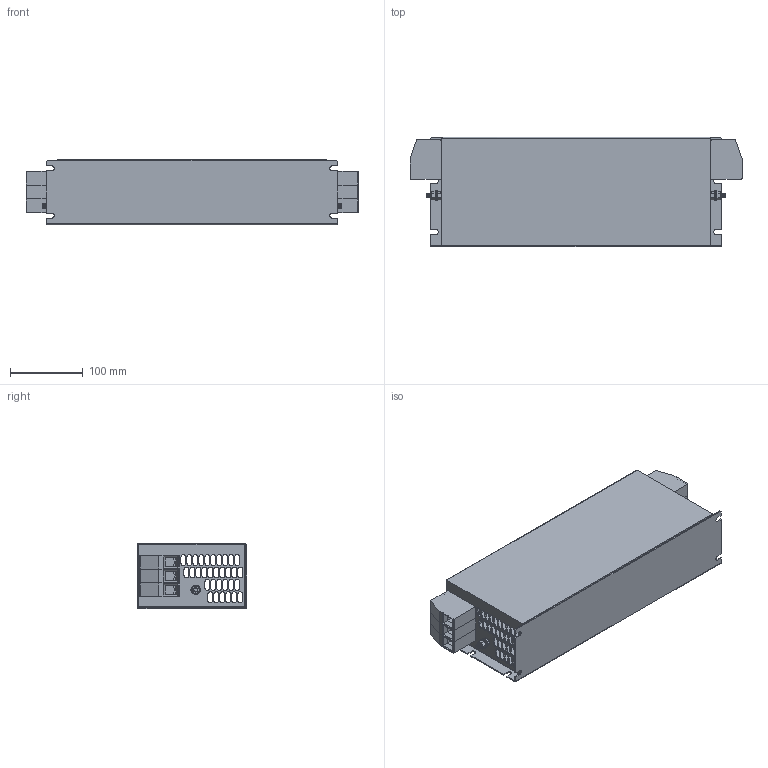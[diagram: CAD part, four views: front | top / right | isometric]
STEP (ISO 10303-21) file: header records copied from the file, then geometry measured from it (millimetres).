
FILE_DESCRIPTION (( 'STEP AP203' ), '1' );
FILE_NAME ('NF-KC-DAR2-100-3 & 130-3.STEP', '2026-01-27T17:01:01', ( '' ), ( '' ), 'SwSTEP 2.0', 'SolidWorks 2017', '' );
FILE_SCHEMA (( 'CONFIG_CONTROL_DESIGN' ));
Length unit declared in the file: millimetre
Products named in the file (7): flat washer narrow_am_B18.22M - Plain washer, 6 mm, narrow; hex nut style 1_am_B18.2.4.1M - Hex nut, Style 1,  M6 x 1 --D-N; hex screw_am (dont use)_B18.6.7M - M6 x 1.0 x 16 Indented HHMS --16S; NF-KC-DAR2-100-3 & 130-3; NF-KC-DAR2-100-3; HDFK-50; M6x16 Earth post
Assembly tree (13 placements, depth 3):
  NF-KC-DAR2-100-3 & 130-3
    NF-KC-DAR2-100-3
    M6x16 Earth post  x2
      flat washer narrow_am_B18.22M - Plain washer, 6 mm, narrow
      hex nut style 1_am_B18.2.4.1M - Hex nut, Style 1,  M6 x 1 --D-N
      hex screw_am (dont use)_B18.6.7M - M6 x 1.0 x 16 Indented HHMS --16S
    HDFK-50  x6
Bounding box: 456.01 x 150 x 90 mm (x, y, z)
Volume: 550466.8 mm3; surface area: 537196.7 mm2
Topology: 17 solids, 17 shells, 1437 faces, 3887 edges, 2534 vertices
Faces by surface type: plane 712, cylinder 555, cone 168, sphere 2
Entity records: 33844 total; most frequent: CARTESIAN_POINT 5809, DIRECTION 5755, ORIENTED_EDGE 5582, EDGE_CURVE 2791, AXIS2_PLACEMENT_3D 2006, VERTEX_POINT 1836, VECTOR 1743, LINE 1743
